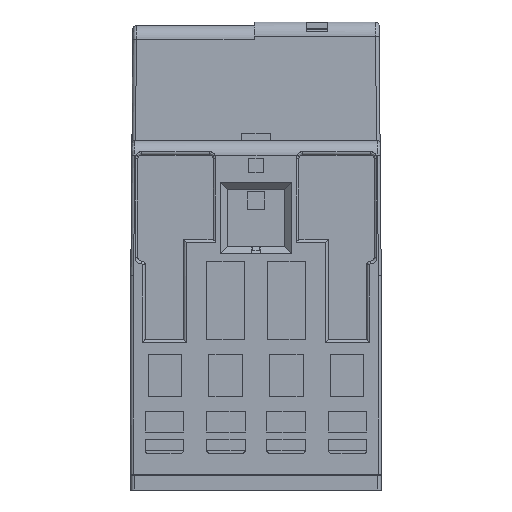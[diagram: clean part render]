
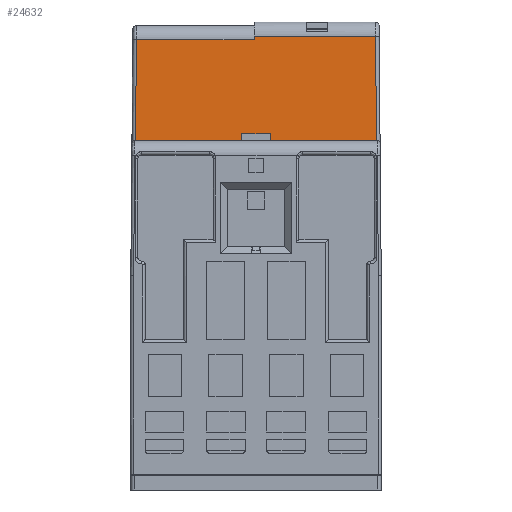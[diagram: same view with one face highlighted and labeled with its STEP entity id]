
A CAD part, front view. The second image highlights one B-rep face of the part: STEP entity #24632.
In plain terms, the highlighted planar face has unit normal (0, -1, 0.009).
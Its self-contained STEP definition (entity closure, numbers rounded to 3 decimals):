
#91 = VERTEX_POINT ( 'NONE', #14456 ) ;
#496 = FACE_OUTER_BOUND ( 'NONE', #34549, .T. ) ;
#1552 = VECTOR ( 'NONE', #13983, 1000. ) ;
#2472 = VERTEX_POINT ( 'NONE', #14102 ) ;
#3624 = EDGE_CURVE ( 'NONE', #2472, #29061, #31596, .T. ) ;
#3950 = ORIENTED_EDGE ( 'NONE', *, *, #20106, .T. ) ;
#3984 = CARTESIAN_POINT ( 'NONE',  ( 17.25, 20.173, 62.917 ) ) ;
#4089 = EDGE_CURVE ( 'NONE', #35302, #40496, #14611, .T. ) ;
#4142 = VECTOR ( 'NONE', #21000, 1000. ) ;
#4766 = EDGE_CURVE ( 'NONE', #28547, #38799, #39146, .T. ) ;
#4791 = PLANE ( 'NONE',  #17809 ) ;
#5956 = CARTESIAN_POINT ( 'NONE',  ( 0.805, 20.191, 64.96 ) ) ;
#6002 = EDGE_CURVE ( 'NONE', #31835, #13349, #27233, .T. ) ;
#6009 = ORIENTED_EDGE ( 'NONE', *, *, #32843, .T. ) ;
#6665 = CARTESIAN_POINT ( 'NONE',  ( 34.336, 20.05, 48.8 ) ) ;
#7104 = ORIENTED_EDGE ( 'NONE', *, *, #26182, .F. ) ;
#8196 = LINE ( 'NONE', #21264, #27380 ) ;
#8418 = DIRECTION ( 'NONE',  ( 1., 0., 0. ) ) ;
#9133 = CARTESIAN_POINT ( 'NONE',  ( 0.787, 20.173, 62.917 ) ) ;
#9786 = CARTESIAN_POINT ( 'NONE',  ( 15.5, 20.05, 48.8 ) ) ;
#10276 = LINE ( 'NONE', #39235, #33149 ) ;
#10752 = CARTESIAN_POINT ( 'NONE',  ( -1.112, 20.059, 49.8 ) ) ;
#11962 = VECTOR ( 'NONE', #34723, 1000. ) ;
#12637 = CARTESIAN_POINT ( 'NONE',  ( 34.208, 20.178, 63.422 ) ) ;
#13349 = VERTEX_POINT ( 'NONE', #18590 ) ;
#13398 = ORIENTED_EDGE ( 'NONE', *, *, #24695, .F. ) ;
#13983 = DIRECTION ( 'NONE',  ( 1., 0., 0. ) ) ;
#14102 = CARTESIAN_POINT ( 'NONE',  ( 0.664, 20.05, 48.8 ) ) ;
#14456 = CARTESIAN_POINT ( 'NONE',  ( 19.5, 20.05, 48.8 ) ) ;
#14588 = VECTOR ( 'NONE', #32077, 1000. ) ;
#14611 = LINE ( 'NONE', #28074, #4142 ) ;
#16157 = CARTESIAN_POINT ( 'NONE',  ( 17.25, 20.05, 48.8 ) ) ;
#16368 = DIRECTION ( 'NONE',  ( 0., -0.009, -1. ) ) ;
#16865 = ORIENTED_EDGE ( 'NONE', *, *, #4766, .T. ) ;
#17809 = AXIS2_PLACEMENT_3D ( 'NONE', #27494, #24909, #8418 ) ;
#18590 = CARTESIAN_POINT ( 'NONE',  ( 19.5, 20.059, 49.8 ) ) ;
#19310 = ORIENTED_EDGE ( 'NONE', *, *, #26223, .T. ) ;
#19374 = VECTOR ( 'NONE', #41756, 1000. ) ;
#20106 = EDGE_CURVE ( 'NONE', #40496, #28547, #40745, .T. ) ;
#20225 = ORIENTED_EDGE ( 'NONE', *, *, #3624, .T. ) ;
#21000 = DIRECTION ( 'NONE',  ( -0.009, 0.009, 1. ) ) ;
#21264 = CARTESIAN_POINT ( 'NONE',  ( 17.25, 20.173, 62.917 ) ) ;
#23357 = DIRECTION ( 'NONE',  ( 0., -0.009, -1. ) ) ;
#24431 = CARTESIAN_POINT ( 'NONE',  ( -1.112, 20.178, 63.422 ) ) ;
#24632 = ADVANCED_FACE ( 'NONE', ( #496 ), #4791, .T. ) ;
#24695 = EDGE_CURVE ( 'NONE', #37130, #38799, #8196, .T. ) ;
#24909 = DIRECTION ( 'NONE',  ( 0., -1., 0.009 ) ) ;
#25208 = VECTOR ( 'NONE', #38205, 1000. ) ;
#26042 = VECTOR ( 'NONE', #16368, 1000. ) ;
#26182 = EDGE_CURVE ( 'NONE', #2472, #37130, #39371, .T. ) ;
#26223 = EDGE_CURVE ( 'NONE', #29061, #31835, #28859, .T. ) ;
#27233 = LINE ( 'NONE', #10752, #1552 ) ;
#27342 = ORIENTED_EDGE ( 'NONE', *, *, #29465, .T. ) ;
#27380 = VECTOR ( 'NONE', #34369, 1000. ) ;
#27494 = CARTESIAN_POINT ( 'NONE',  ( -1.112, 20.05, 48.8 ) ) ;
#28074 = CARTESIAN_POINT ( 'NONE',  ( 34.208, 20.178, 63.422 ) ) ;
#28547 = VERTEX_POINT ( 'NONE', #42338 ) ;
#28732 = VECTOR ( 'NONE', #41694, 1000. ) ;
#28859 = LINE ( 'NONE', #32501, #19374 ) ;
#29061 = VERTEX_POINT ( 'NONE', #9786 ) ;
#29465 = EDGE_CURVE ( 'NONE', #13349, #91, #10276, .T. ) ;
#30889 = LINE ( 'NONE', #40566, #25208 ) ;
#31596 = LINE ( 'NONE', #34836, #28732 ) ;
#31835 = VERTEX_POINT ( 'NONE', #33250 ) ;
#32077 = DIRECTION ( 'NONE',  ( 0.009, 0.009, 1. ) ) ;
#32501 = CARTESIAN_POINT ( 'NONE',  ( 15.5, 20.05, 48.8 ) ) ;
#32843 = EDGE_CURVE ( 'NONE', #91, #35302, #30889, .T. ) ;
#33149 = VECTOR ( 'NONE', #23357, 1000. ) ;
#33250 = CARTESIAN_POINT ( 'NONE',  ( 15.5, 20.059, 49.8 ) ) ;
#34369 = DIRECTION ( 'NONE',  ( 1., 0., 0. ) ) ;
#34549 = EDGE_LOOP ( 'NONE', ( #19310, #39064, #27342, #6009, #36657, #3950, #16865, #13398, #7104, #20225 ) ) ;
#34723 = DIRECTION ( 'NONE',  ( -1., 0., 0. ) ) ;
#34836 = CARTESIAN_POINT ( 'NONE',  ( 0., 20.05, 48.8 ) ) ;
#35302 = VERTEX_POINT ( 'NONE', #6665 ) ;
#36657 = ORIENTED_EDGE ( 'NONE', *, *, #4089, .T. ) ;
#37130 = VERTEX_POINT ( 'NONE', #9133 ) ;
#38205 = DIRECTION ( 'NONE',  ( 1., 0., 0. ) ) ;
#38799 = VERTEX_POINT ( 'NONE', #3984 ) ;
#39064 = ORIENTED_EDGE ( 'NONE', *, *, #6002, .T. ) ;
#39146 = LINE ( 'NONE', #16157, #26042 ) ;
#39235 = CARTESIAN_POINT ( 'NONE',  ( 19.5, 20.05, 48.8 ) ) ;
#39371 = LINE ( 'NONE', #5956, #14588 ) ;
#40496 = VERTEX_POINT ( 'NONE', #12637 ) ;
#40566 = CARTESIAN_POINT ( 'NONE',  ( 0., 20.05, 48.8 ) ) ;
#40745 = LINE ( 'NONE', #24431, #11962 ) ;
#41694 = DIRECTION ( 'NONE',  ( 1., 0., 0. ) ) ;
#41756 = DIRECTION ( 'NONE',  ( 0., 0.009, 1. ) ) ;
#42338 = CARTESIAN_POINT ( 'NONE',  ( 17.25, 20.178, 63.422 ) ) ;
